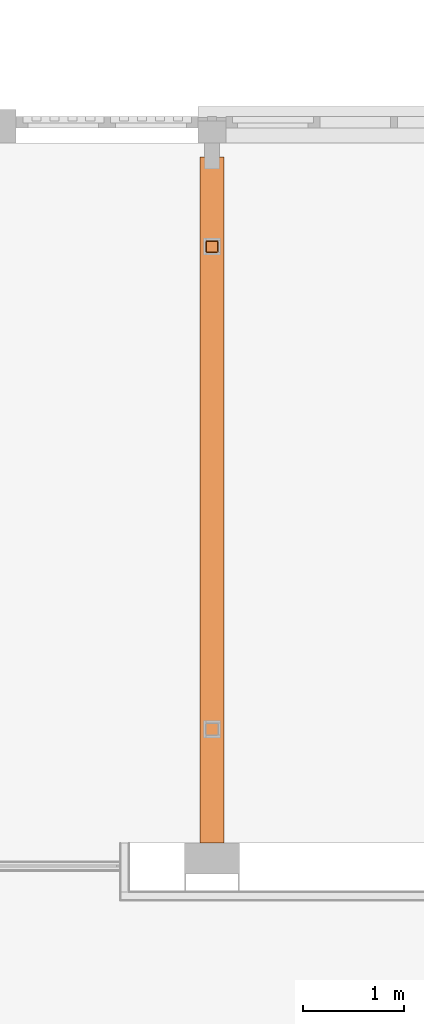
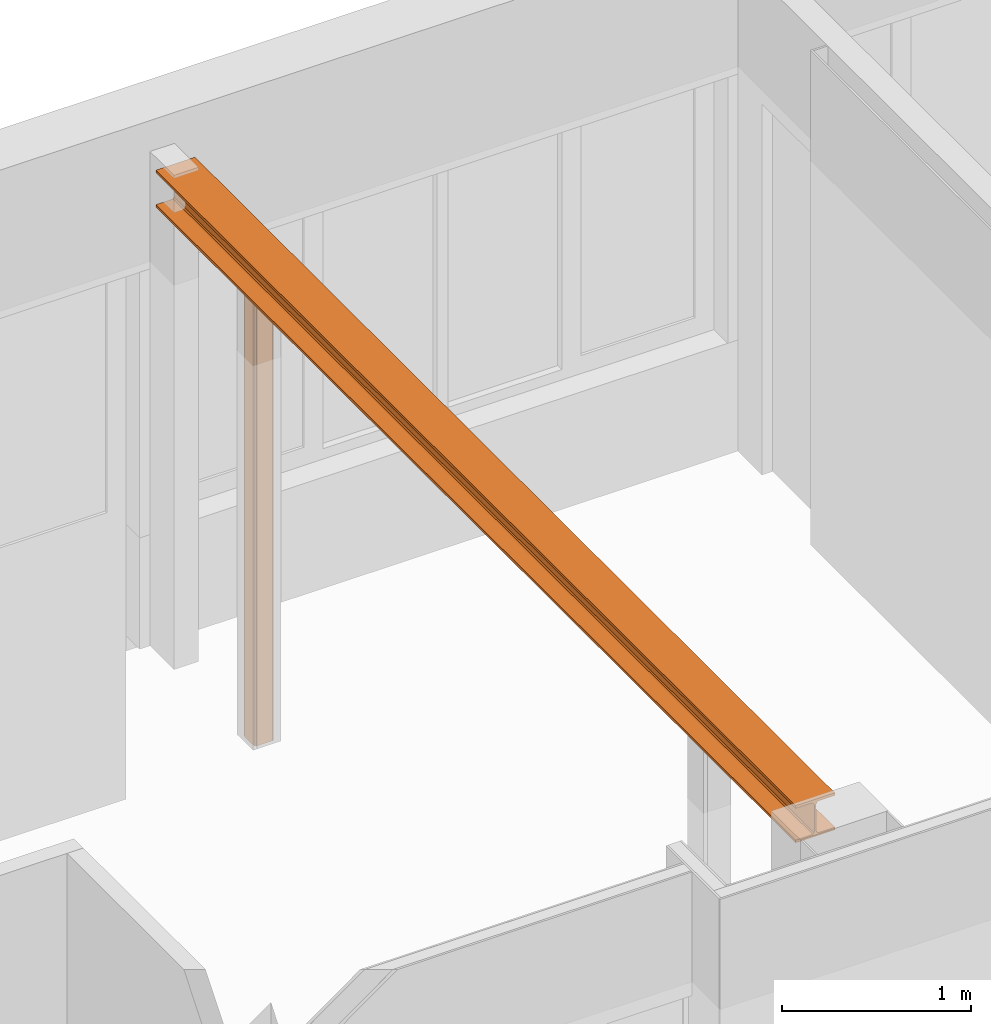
# One storey, part 85 of 99: 2 proxies.
"""IFC2X3 building model written with IfcOpenShell, lengths in millimetres."""

from ifc_helpers import new_model, entity, si_unit, converted_unit, derived_unit, money_unit, direction, frame, origin_with_axes, place, context, subcontext, project, spatial, faceted_brep, source, transform, mapped, material, type_object, type_shapes, element, save


model = new_model("IFC2X3")

# Units and contexts
model_context = context("Model", 3, precision=0.01, world=origin_with_axes(), true_north=direction((0.0, 1.0)))
body_context = subcontext(model_context, "Body", "Model", "MODEL_VIEW")
ifc_project = project(units=[si_unit("LENGTHUNIT", "METRE", prefix="MILLI"), si_unit("AREAUNIT", "SQUARE_METRE"), si_unit("VOLUMEUNIT", "CUBIC_METRE"), converted_unit("PLANEANGLEUNIT", "DEGREE", entity("IfcPlaneAngleMeasure", 0.0174532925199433), si_unit("PLANEANGLEUNIT", "RADIAN"), dimensions=[0, 0, 0, 0, 0, 0, 0]), money_unit("EUR"), converted_unit("TIMEUNIT", "Year", entity("IfcTimeMeasure", 31557600.0), si_unit("TIMEUNIT", "SECOND"), dimensions=[0, 0, 1, 0, 0, 0, 0]), si_unit("MASSUNIT", "GRAM", prefix="KILO"), si_unit("THERMODYNAMICTEMPERATUREUNIT", "DEGREE_CELSIUS"), si_unit("LUMINOUSINTENSITYUNIT", "LUMEN"), si_unit("ENERGYUNIT", "JOULE", prefix="MEGA"), derived_unit("THERMALCONDUCTANCEUNIT", [(si_unit("POWERUNIT", "WATT"), 1), (si_unit("LENGTHUNIT", "METRE"), -1), (si_unit("THERMODYNAMICTEMPERATUREUNIT", "KELVIN"), -1)]), derived_unit("SPECIFICHEATCAPACITYUNIT", [(si_unit("ENERGYUNIT", "JOULE"), 1), (si_unit("MASSUNIT", "GRAM", prefix="KILO"), -1), (si_unit("THERMODYNAMICTEMPERATUREUNIT", "KELVIN"), -1)]), derived_unit("MASSDENSITYUNIT", [(si_unit("MASSUNIT", "GRAM", prefix="KILO"), 1), (si_unit("VOLUMEUNIT", "CUBIC_METRE"), -1)])], contexts=[model_context])

# Site, building, storey
site_placement = place(None, origin_with_axes())
site = spatial("IfcSite", under=ifc_project, at=site_placement, Name="Site", CompositionType="ELEMENT")
building_placement = place(site_placement, origin_with_axes())
building = spatial("IfcBuilding", under=site, at=building_placement, Name="Naam gebouw", CompositionType="ELEMENT")
storey_placement = place(building_placement, frame((0.0, 0.0, 7650.0), z_axis=(0.0, 0.0, 1.0), x_axis=(1.0, 0.0, 0.0)))
storey = spatial("IfcBuildingStorey", under=building, at=storey_placement, Name="2e verdieping N", CompositionType="ELEMENT", Elevation=7650.0)

# Proxies
ifc_material = material(Name="Metaal - Staal AFW")
building_element_proxy_type_1 = type_object("IfcBuildingElementProxyType", Name="HEB balk 27", PredefinedType="NOTDEFINED")
shared_shape_1 = source(origin_with_axes(), body_context, "Body", "Brep", [
    faceted_brep([(0.0, -120.0, 0.0), (-6785.0, -120.0000000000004, 0.0), (-6785.0, 119.9999999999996, 0.0), (0.0, 120.0, 0.0), (0.0, -120.0, 17.0), (-6785.0, -120.0000000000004, 17.00000000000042), (-6785.0, -26.00000000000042, 17.00000000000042), (-6785.0, -15.50000000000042, 19.81346652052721), (-6785.0, -7.813466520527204, 27.50000000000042), (-6785.0, -5.000000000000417, 38.00000000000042), (-6785.0, -5.000000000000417, 202.0000000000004), (-6785.0, -7.813466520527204, 212.5000000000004), (-6785.0, -15.50000000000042, 220.1865334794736), (-6785.0, -26.00000000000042, 223.0000000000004), (-6785.0, -120.0000000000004, 223.0000000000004), (-6785.0, -120.0000000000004, 240.0000000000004), (-6785.0, 119.9999999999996, 240.0000000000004), (-6785.0, 119.9999999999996, 223.0000000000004), (-6785.0, 25.99999999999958, 223.0000000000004), (-6785.0, 15.49999999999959, 220.1865334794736), (-6785.0, 7.813466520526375, 212.5000000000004), (-6785.0, 4.999999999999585, 202.0000000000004), (-6785.0, 4.999999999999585, 38.00000000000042), (-6785.0, 7.813466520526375, 27.50000000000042), (-6785.0, 15.49999999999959, 19.81346652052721), (-6785.0, 25.99999999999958, 17.00000000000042), (-6785.0, 119.9999999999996, 17.00000000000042), (0.0, 120.0, 17.0), (0.0, 26.0, 17.0), (0.0, 15.5, 19.8134665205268), (0.0, 7.81346652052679, 27.5), (0.0, 5.000000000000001, 38.00000000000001), (0.0, 5.000000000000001, 202.0), (0.0, 7.81346652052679, 212.5), (0.0, 15.5, 220.1865334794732), (0.0, 26.0, 223.0), (0.0, 120.0, 223.0), (0.0, 120.0, 240.0), (0.0, -120.0, 240.0), (0.0, -120.0, 223.0), (0.0, -26.0, 223.0), (0.0, -15.5, 220.1865334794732), (0.0, -7.81346652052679, 212.5), (0.0, -5.000000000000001, 202.0), (0.0, -5.000000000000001, 38.00000000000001), (0.0, -7.81346652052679, 27.5), (0.0, -15.5, 19.8134665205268), (0.0, -26.0, 17.0)], [[[0, 1, 2, 3]], [[4, 5, 1, 0]], [[1, 5, 6, 7, 8, 9, 10, 11, 12, 13, 14, 15, 16, 17, 18, 19, 20, 21, 22, 23, 24, 25, 26, 2]], [[3, 2, 26, 27]], [[0, 3, 27, 28, 29, 30, 31, 32, 33, 34, 35, 36, 37, 38, 39, 40, 41, 42, 43, 44, 45, 46, 47, 4]], [[47, 6, 5, 4]], [[46, 7, 6, 47]], [[45, 8, 7, 46]], [[44, 9, 8, 45]], [[43, 10, 9, 44]], [[42, 11, 10, 43]], [[41, 12, 11, 42]], [[40, 13, 12, 41]], [[39, 14, 13, 40]], [[38, 15, 14, 39]], [[37, 16, 15, 38]], [[36, 17, 16, 37]], [[35, 18, 17, 36]], [[34, 19, 18, 35]], [[33, 20, 19, 34]], [[32, 21, 20, 33]], [[31, 22, 21, 32]], [[30, 23, 22, 31]], [[29, 24, 23, 30]], [[28, 25, 24, 29]], [[27, 26, 25, 28]]]),
])
type_shapes(building_element_proxy_type_1, [shared_shape_1])
proxy_1_placement = place(storey_placement, frame((35999.99999999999, 20580.91242510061, 2939.999999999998), z_axis=(0.0, 0.0, 1.0), x_axis=(0.0, -1.0, 0.0)))
element("IfcBuildingElementProxy", 1, at=proxy_1_placement, inside=storey, type_object=building_element_proxy_type_1, material=ifc_material, Name="_Boom-x", context=body_context, shape_type="MappedRepresentation", body=[
    mapped(shared_shape_1, transform((0.0, 0.0, 0.0))),
])
building_element_proxy_type_2 = type_object("IfcBuildingElementProxyType", Name="Buis vk warmgew kolom 27", PredefinedType="NOTDEFINED")
shared_shape_2 = source(origin_with_axes(), body_context, "Body", "Brep", [
    faceted_brep([(49.99999999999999, -60.0, 0.0), (49.99999999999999, -60.0, 2939.999999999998), (-49.99999999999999, -60.0, 2939.999999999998), (-49.99999999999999, -60.0, 0.0), (57.07106781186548, -57.07106781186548, 0.0), (57.07106781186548, -57.07106781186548, 2939.999999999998), (60.0, -49.99999999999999, 2939.999999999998), (60.00000000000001, 49.99999999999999, 2939.999999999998), (57.07106781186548, 57.07106781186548, 2939.999999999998), (49.99999999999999, 60.0, 2939.999999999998), (-49.99999999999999, 60.00000000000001, 2939.999999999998), (-57.07106781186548, 57.07106781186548, 2939.999999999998), (-60.0, 49.99999999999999, 2939.999999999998), (-60.00000000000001, -49.99999999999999, 2939.999999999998), (-57.07106781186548, -57.07106781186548, 2939.999999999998), (49.99999999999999, -55.0, 2939.999999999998), (-49.99999999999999, -55.0, 2939.999999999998), (-53.53553390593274, -53.53553390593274, 2939.999999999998), (-55.0, -49.99999999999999, 2939.999999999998), (-55.0, 49.99999999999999, 2939.999999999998), (-53.53553390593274, 53.53553390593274, 2939.999999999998), (-49.99999999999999, 55.0, 2939.999999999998), (49.99999999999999, 55.0, 2939.999999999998), (53.53553390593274, 53.53553390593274, 2939.999999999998), (55.0, 49.99999999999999, 2939.999999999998), (55.0, -49.99999999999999, 2939.999999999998), (53.53553390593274, -53.53553390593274, 2939.999999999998), (-57.07106781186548, -57.07106781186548, 0.0), (-60.00000000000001, -49.99999999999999, 0.0), (-60.0, 49.99999999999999, 0.0), (-57.07106781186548, 57.07106781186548, 0.0), (-49.99999999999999, 60.00000000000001, 0.0), (49.99999999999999, 60.0, 0.0), (57.07106781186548, 57.07106781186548, 0.0), (60.00000000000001, 49.99999999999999, 0.0), (60.0, -49.99999999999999, 0.0), (49.99999999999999, -55.0, 0.0), (53.53553390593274, -53.53553390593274, 0.0), (55.0, -49.99999999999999, 0.0), (55.0, 49.99999999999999, 0.0), (53.53553390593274, 53.53553390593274, 0.0), (49.99999999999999, 55.0, 0.0), (-49.99999999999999, 55.0, 0.0), (-53.53553390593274, 53.53553390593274, 0.0), (-55.0, 49.99999999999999, 0.0), (-55.0, -49.99999999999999, 0.0), (-53.53553390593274, -53.53553390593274, 0.0), (-49.99999999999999, -55.0, 0.0)], [[[0, 1, 2, 3]], [[4, 5, 1, 0]], [[1, 5, 6, 7, 8, 9, 10, 11, 12, 13, 14, 2], [15, 16, 17, 18, 19, 20, 21, 22, 23, 24, 25, 26]], [[3, 2, 14, 27]], [[0, 3, 27, 28, 29, 30, 31, 32, 33, 34, 35, 4], [36, 37, 38, 39, 40, 41, 42, 43, 44, 45, 46, 47]], [[35, 6, 5, 4]], [[34, 7, 6, 35]], [[33, 8, 7, 34]], [[32, 9, 8, 33]], [[31, 10, 9, 32]], [[30, 11, 10, 31]], [[29, 12, 11, 30]], [[28, 13, 12, 29]], [[27, 14, 13, 28]], [[47, 16, 15, 36]], [[46, 17, 16, 47]], [[45, 18, 17, 46]], [[44, 19, 18, 45]], [[43, 20, 19, 44]], [[42, 21, 20, 43]], [[41, 22, 21, 42]], [[40, 23, 22, 41]], [[39, 24, 23, 40]], [[38, 25, 24, 39]], [[37, 26, 25, 38]], [[36, 15, 26, 37]]]),
])
type_shapes(building_element_proxy_type_2, [shared_shape_2])
proxy_2_placement = place(storey_placement, frame((35999.99999999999, 26480.91242510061, 0.0), z_axis=(0.0, 0.0, 1.0), x_axis=(0.0, -1.0, 0.0)))
element("IfcBuildingElementProxy", 2, at=proxy_2_placement, inside=storey, type_object=building_element_proxy_type_2, material=ifc_material, Name="_Boom-x", context=body_context, shape_type="MappedRepresentation", body=[
    mapped(shared_shape_2, transform((0.0, 0.0, 0.0))),
])

save(model, "model.ifc")
